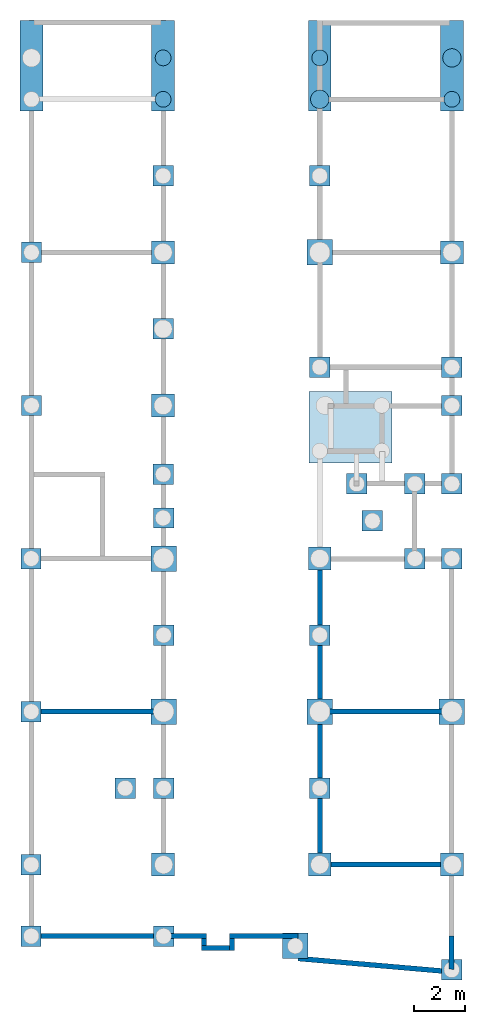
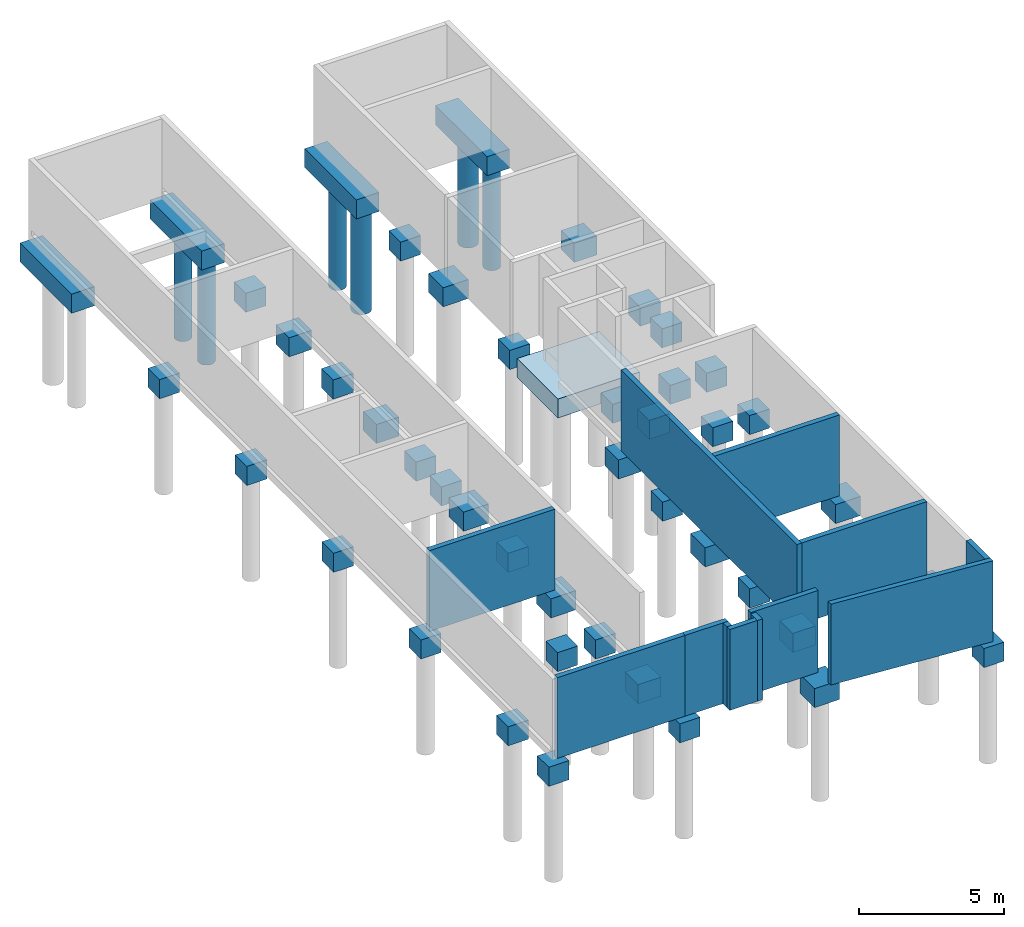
# One storey, part 2 of 3: 45 slabs, 12 walls, 6 columns.
"""IFC2X3 building model written with IfcOpenShell, lengths in metres."""

import ifcopenshell
import ifcopenshell.guid

model = None  # the IFC model being written
_history = None  # IfcOwnerHistory: only IFC2X3 demands one
_inside = {}  # id of a spatial element -> (the spatial element, [elements in it])
_under = {}  # id of a project, library or spatial element -> (it, [spatial elements below it])
_declared = {}  # id of a project -> (the project, [libraries it declares])
_typed = {}  # id of a type object -> (the type object, [elements of that type])
_made_of = {}  # id of a material, layer set ... -> (it, [elements and type objects made of it])


def new_model(schema):
    """Start an empty IFC model of exactly this schema.

    Asked for "IFC4X3", IfcOpenShell would pick the latest addendum, in which some entities
    have other attributes; the version numbers below select the first issue.
    IFC2X3 requires an IfcOwnerHistory on every rooted entity: one is made here for all.
    """
    global model, _history
    if schema == "IFC4X3":
        model = ifcopenshell.file(schema_version=(4, 3, 0, 0))
    else:
        model = ifcopenshell.file(schema=schema)
    _inside.clear()
    _under.clear()
    _declared.clear()
    _typed.clear()
    _made_of.clear()
    _history = None
    if model.schema == "IFC2X3":
        org = make("IfcOrganization", Name="unknown")
        user = make(
            "IfcPersonAndOrganization",
            ThePerson=make("IfcPerson", FamilyName="unknown"),
            TheOrganization=org,
        )
        app = make(
            "IfcApplication",
            ApplicationDeveloper=org,
            Version="unknown",
            ApplicationFullName="unknown",
            ApplicationIdentifier="unknown",
        )
        _history = make(
            "IfcOwnerHistory",
            OwningUser=user,
            OwningApplication=app,
            ChangeAction="ADDED",
            CreationDate=0,
        )
    return model


def make(cls, **values):
    """One entity of the class cls with the attributes given. An attribute that is None is left unset."""
    return model.create_entity(
        cls, **{name: value for name, value in values.items() if value is not None}
    )


def entity(cls, *values):
    """Any entity or typed value of the class cls, its attributes in the order of the schema. None: left unset."""
    e = model.create_entity(cls)
    for i, value in enumerate(values):
        if value is not None:
            e[i] = value
    return e


def rooted(cls, **values):
    """An entity with a GlobalId (a new one), such as an element, a storey or a relation."""
    return make(cls, GlobalId=ifcopenshell.guid.new(), OwnerHistory=_history, **values)


def si_unit(unit_type, name, prefix=None):
    """IfcSIUnit, for example si_unit("LENGTHUNIT", "METRE", prefix="MILLI")."""
    return make("IfcSIUnit", UnitType=unit_type, Prefix=prefix, Name=name)


def converted_unit(unit_type, name, factor, base, dimensions=None, offset=None):
    """IfcConversionBasedUnit, such as the inch: factor (a typed value) times the base unit."""
    return make(
        "IfcConversionBasedUnit"
        if offset is None
        else "IfcConversionBasedUnitWithOffset",
        ConversionOffset=offset,
        Dimensions=None
        if dimensions is None
        else entity("IfcDimensionalExponents", *dimensions),
        UnitType=unit_type,
        Name=name,
        ConversionFactor=make(
            "IfcMeasureWithUnit", ValueComponent=factor, UnitComponent=base
        ),
    )


def derived_unit(unit_type, elements):
    """IfcDerivedUnit: a product of units, each with its exponent."""
    return make(
        "IfcDerivedUnit",
        Elements=[
            make("IfcDerivedUnitElement", Unit=unit, Exponent=power)
            for unit, power in elements
        ],
        UnitType=unit_type,
    )


def assignment(units):
    """IfcUnitAssignment: the units of a project."""
    return None if units is None else make("IfcUnitAssignment", Units=units)


def point(xyz):
    """IfcCartesianPoint."""
    return None if xyz is None else make("IfcCartesianPoint", Coordinates=xyz)


def direction(xyz):
    """IfcDirection."""
    return None if xyz is None else make("IfcDirection", DirectionRatios=xyz)


def frame(location, z_axis=None, x_axis=None):
    """IfcAxis2Placement3D, a coordinate frame: its origin and axes. An axis left out is left unset."""
    return make(
        "IfcAxis2Placement3D",
        Location=point(location),
        Axis=direction(z_axis),
        RefDirection=direction(x_axis),
    )


def frame_2d(location, x_axis=None):
    """IfcAxis2Placement2D, a coordinate frame in the plane: its origin and x axis."""
    return make(
        "IfcAxis2Placement2D", Location=point(location), RefDirection=direction(x_axis)
    )


def origin():
    """The frame at (0, 0, 0) with its axes left unset."""
    return frame((0.0, 0.0, 0.0))


def origin_2d_with_axis():
    """The frame at (0, 0) in the plane with the x axis (1, 0) written out."""
    return frame_2d((0.0, 0.0), x_axis=(1.0, 0.0))


def place(relative_to, where):
    """IfcLocalPlacement: puts the frame where relative to a parent placement (None: the world)."""
    return make(
        "IfcLocalPlacement", PlacementRelTo=relative_to, RelativePlacement=where
    )


def context(
    kind, dimensions, precision=None, world=None, true_north=None, identifier=None
):
    """IfcGeometricRepresentationContext, for example the 3D "Model" context."""
    return make(
        "IfcGeometricRepresentationContext",
        ContextIdentifier=identifier,
        ContextType=kind,
        CoordinateSpaceDimension=dimensions,
        Precision=precision,
        WorldCoordinateSystem=world,
        TrueNorth=true_north,
    )


def subcontext(parent, identifier, kind, view, scale=None):
    """IfcGeometricRepresentationSubContext, for example "Body" below "Model"."""
    return make(
        "IfcGeometricRepresentationSubContext",
        ContextIdentifier=identifier,
        ContextType=kind,
        ParentContext=parent,
        TargetScale=scale,
        TargetView=view,
    )


def project(units=None, contexts=None):
    """IfcProject with its units and contexts."""
    return rooted(
        "IfcProject",
        Name="project",
        RepresentationContexts=contexts,
        UnitsInContext=assignment(units),
    )


def spatial(cls, under=None, at=None, **own):
    """A site, building, storey or space (cls), placed at a placement, below another one or the project."""
    s = rooted(cls, ObjectPlacement=at, **own)
    if under is not None:
        _under.setdefault(under.id(), (under, []))[1].append(s)
    return s


def polyline(points):
    """IfcPolyline through the points."""
    return make("IfcPolyline", Points=[point(p) for p in points])


def profile(cls, at=None, kind="AREA", **sizes):
    """A parametric profile (cls). Its sizes go by their IFC names, for example OverallWidth=200.0."""
    return make(cls, ProfileType=kind, Position=at, **sizes)


def rectangle(**sizes):
    """IfcRectangleProfileDef."""
    return profile("IfcRectangleProfileDef", **sizes)


def circle(**sizes):
    """IfcCircleProfileDef."""
    return profile("IfcCircleProfileDef", **sizes)


def outline(outer, holes=None, kind="AREA"):
    """IfcArbitraryClosedProfileDef: a profile drawn as a closed curve; with holes, ...WithVoids."""
    if holes is None:
        return make("IfcArbitraryClosedProfileDef", ProfileType=kind, OuterCurve=outer)
    return make(
        "IfcArbitraryProfileDefWithVoids",
        ProfileType=kind,
        OuterCurve=outer,
        InnerCurves=holes,
    )


def extrude(swept, where, along, depth):
    """IfcExtrudedAreaSolid: the profile swept, set in the frame where, extruded along a direction by depth."""
    return make(
        "IfcExtrudedAreaSolid",
        SweptArea=swept,
        Position=where,
        ExtrudedDirection=direction(along),
        Depth=depth,
    )


def shape(context_of_items, identifier, shape_type, items):
    """IfcShapeRepresentation: the items that make up one representation, for example the "Body"."""
    return make(
        "IfcShapeRepresentation",
        ContextOfItems=context_of_items,
        RepresentationIdentifier=identifier,
        RepresentationType=shape_type,
        Items=items,
    )


def source(mapping_origin, context_of_items, identifier, shape_type, items):
    """IfcRepresentationMap: a shape defined once, which mapped items show again and again."""
    return make(
        "IfcRepresentationMap",
        MappingOrigin=mapping_origin,
        MappedRepresentation=shape(context_of_items, identifier, shape_type, items),
    )


def transform(
    local_origin,
    x_axis=None,
    y_axis=None,
    z_axis=None,
    scale=None,
    scale2=None,
    scale3=None,
    uniform=True,
):
    """IfcCartesianTransformationOperator3D, or its non-uniform kind. x_axis, y_axis, z_axis: its Axis1, 2, 3."""
    if uniform:
        return make(
            "IfcCartesianTransformationOperator3D",
            Axis1=direction(x_axis),
            Axis2=direction(y_axis),
            LocalOrigin=point(local_origin),
            Scale=scale,
            Axis3=direction(z_axis),
        )
    return make(
        "IfcCartesianTransformationOperator3DnonUniform",
        Axis1=direction(x_axis),
        Axis2=direction(y_axis),
        LocalOrigin=point(local_origin),
        Scale=scale,
        Axis3=direction(z_axis),
        Scale2=scale2,
        Scale3=scale3,
    )


def mapped(mapping_source, mapping_target):
    """IfcMappedItem: shows the shape of a source again, moved by a transform."""
    return make(
        "IfcMappedItem", MappingSource=mapping_source, MappingTarget=mapping_target
    )


def material(Name=None, Category=None):
    """IfcMaterial."""
    return make("IfcMaterial", Name=Name, Category=Category)


def layer(
    of_material, thickness, ventilated=None, Name=None, Category=None, Priority=None
):
    """IfcMaterialLayer: one layer of a wall or slab, of a material (None: an air gap)."""
    return make(
        "IfcMaterialLayer",
        Material=of_material,
        LayerThickness=thickness,
        IsVentilated=ventilated,
        Name=Name,
        Category=Category,
        Priority=Priority,
    )


def layer_set(layers, Name=None):
    """IfcMaterialLayerSet."""
    return make("IfcMaterialLayerSet", MaterialLayers=layers, LayerSetName=Name)


def layer_usage(for_layer_set, set_direction, sense, offset, extent=None):
    """IfcMaterialLayerSetUsage: how a layer set lies in its element."""
    return make(
        "IfcMaterialLayerSetUsage",
        ForLayerSet=for_layer_set,
        LayerSetDirection=set_direction,
        DirectionSense=sense,
        OffsetFromReferenceLine=offset,
        ReferenceExtent=extent,
    )


def made_of(thing, what):
    """Note that an element or type object is made of a material, layer set ...; save() writes the relation."""
    if what is not None:
        _made_of.setdefault(what.id(), (what, []))[1].append(thing)
    return thing


def type_object(cls, material=None, **own):
    """A type object (cls), such as IfcWallType, which elements share."""
    return made_of(rooted(cls, **own), material)


def type_shapes(of_type, sources):
    """Give a type object the sources (RepresentationMaps) that its elements show as mapped items."""
    of_type.RepresentationMaps = sources


def element(
    cls,
    number,
    at=None,
    inside=None,
    cuts=None,
    type_object=None,
    material=None,
    context=None,
    identifier="Body",
    shape_type=None,
    held_by="IfcProductDefinitionShape",
    body=None,
    shapes=None,
    **own,
):
    """One element of the class cls, such as IfcWall. Its Tag is "e" and its number.

    at: its placement. inside: the storey or other place that contains it. cuts: it is an
    opening in that element (IfcRelVoidsElement). A single representation is given by context,
    identifier, shape_type and body (its items); several are given by shapes. held_by: the class
    of the entity that holds the representations. save() writes the other relations.
    """
    e = rooted(cls, Tag="e%d" % number, ObjectPlacement=at, **own)
    if body is not None:
        shapes = [shape(context, identifier, shape_type, body)]
    if shapes is not None:
        e.Representation = make(held_by, Representations=shapes)
    if inside is not None:
        _inside.setdefault(inside.id(), (inside, []))[1].append(e)
    if cuts is not None:
        rooted(
            "IfcRelVoidsElement", RelatingBuildingElement=cuts, RelatedOpeningElement=e
        )
    if type_object is not None:
        _typed.setdefault(type_object.id(), (type_object, []))[1].append(e)
    return made_of(e, material)


def aggregate(whole, parts):
    """IfcRelAggregates: a whole, such as a stair, and the parts it consists of."""
    return rooted("IfcRelAggregates", RelatingObject=whole, RelatedObjects=parts)


def save(model, path):
    """Write the relations noted so far, then the file.

    IfcRelAggregates (storeys below a building ...), IfcRelContainedInSpatialStructure (elements
    in a storey), IfcRelDefinesByType, IfcRelAssociatesMaterial and IfcRelDeclares: one each for
    every whole, place, type object, material and project.
    """
    for whole, parts in _under.values():
        aggregate(whole, parts)
    for where, things in _inside.values():
        rooted(
            "IfcRelContainedInSpatialStructure",
            RelatedElements=things,
            RelatingStructure=where,
        )
    for kind, things in _typed.values():
        rooted("IfcRelDefinesByType", RelatedObjects=things, RelatingType=kind)
    for what, things in _made_of.values():
        rooted("IfcRelAssociatesMaterial", RelatedObjects=things, RelatingMaterial=what)
    for by, libraries in _declared.values():
        rooted("IfcRelDeclares", RelatingContext=by, RelatedDefinitions=libraries)
    model.write(path)


model = new_model("IFC2X3")

# Units and contexts
model_context = context("Model", 3, precision=1e-05, world=origin(), true_north=direction((6.12303176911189e-17, 1.0)))
context_of_model = context(None, 3, precision=1e-05, world=origin(), true_north=direction((6.12303176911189e-17, 1.0)))
body_context = subcontext(model_context, "Body", "Model", "MODEL_VIEW")
ifc_project = project(units=[si_unit("LENGTHUNIT", "METRE"), si_unit("AREAUNIT", "SQUARE_METRE"), si_unit("VOLUMEUNIT", "CUBIC_METRE"), converted_unit("PLANEANGLEUNIT", "DEGREE", entity("IfcRatioMeasure", 0.0174532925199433), si_unit("PLANEANGLEUNIT", "RADIAN"), dimensions=[0, 0, 0, 0, 0, 0, 0]), si_unit("MASSUNIT", "GRAM", prefix="KILO"), si_unit("TIMEUNIT", "SECOND"), si_unit("FREQUENCYUNIT", "HERTZ"), si_unit("THERMODYNAMICTEMPERATUREUNIT", "DEGREE_CELSIUS"), derived_unit("THERMALTRANSMITTANCEUNIT", [(si_unit("MASSUNIT", "GRAM", prefix="KILO"), 1), (si_unit("THERMODYNAMICTEMPERATUREUNIT", "KELVIN"), -1), (si_unit("TIMEUNIT", "SECOND"), -3)]), derived_unit("VOLUMETRICFLOWRATEUNIT", [(si_unit("LENGTHUNIT", "METRE"), 3), (si_unit("TIMEUNIT", "SECOND"), -1)]), si_unit("ELECTRICCURRENTUNIT", "AMPERE"), si_unit("ELECTRICVOLTAGEUNIT", "VOLT"), si_unit("POWERUNIT", "WATT"), si_unit("FORCEUNIT", "NEWTON", prefix="KILO"), si_unit("ILLUMINANCEUNIT", "LUX"), si_unit("LUMINOUSFLUXUNIT", "LUMEN"), si_unit("LUMINOUSINTENSITYUNIT", "CANDELA"), si_unit("PRESSUREUNIT", "PASCAL")], contexts=[model_context, context_of_model])

# Site, building, storey
site_placement = place(None, origin())
site = spatial("IfcSite", under=ifc_project, at=site_placement, Name="Default", CompositionType="ELEMENT")
building_placement = place(site_placement, origin())
building = spatial("IfcBuilding", under=site, at=building_placement, CompositionType="ELEMENT")
storey_placement = place(building_placement, frame((0.0, 0.0, -3.39)))
storey = spatial("IfcBuildingStorey", under=building, at=storey_placement, Name="AS Dé", CompositionType="ELEMENT", Elevation=-3.39)

# Columns
column_type_1 = type_object("IfcColumnType", Name="Diamètre de 720 mm 2", PredefinedType="COLUMN")
shared_shape_1 = source(origin(), body_context, "Body", "SweptSolid", [
    extrude(circle(Radius=0.359999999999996, at=frame_2d((1.08286712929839e-15, -0.119999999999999), x_axis=(1.0, 0.0))), frame((5.82836098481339, 8.25485338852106, -8.39)), (0.0, 0.0, 1.0), 4.2),
])
type_shapes(column_type_1, [shared_shape_1])
column_1_placement = place(storey_placement, frame((0.0, 0.0, 3.39)))
element("IfcColumn", 1, at=column_1_placement, inside=storey, type_object=column_type_1, Name="Poteau rond:Diamètre de 720 mm 2", ObjectType="Diamètre de 720 mm 2", context=body_context, shape_type="MappedRepresentation", body=[
    mapped(shared_shape_1, transform((0.0, 0.0, 0.0), scale=1.0)),
])
ifc_material_1 = material(Name="Béton C25/30")
column_type_2 = type_object("IfcColumnType", Name="Diamètre de 720 mm 2", PredefinedType="COLUMN", material=ifc_material_1)
shared_shape_2 = source(origin(), body_context, "Body", "SweptSolid", [
    extrude(circle(Radius=0.359999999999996, at=frame_2d((5.41433564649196e-16, -0.119999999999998), x_axis=(1.0, 0.0))), frame((0.648360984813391, 6.62985338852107, -8.39)), (0.0, 0.0, 1.0), 4.2),
])
type_shapes(column_type_2, [shared_shape_2])
column_2_placement = place(storey_placement, frame((0.0, 0.0, 3.39)))
element("IfcColumn", 2, at=column_2_placement, inside=storey, type_object=column_type_2, material=ifc_material_1, Name="Poteau rond:Diamètre de 720 mm 2", ObjectType="Diamètre de 720 mm 2", context=body_context, shape_type="MappedRepresentation", body=[
    mapped(shared_shape_2, transform((0.0, 0.0, 0.0), scale=1.0)),
])
column_type_3 = type_object("IfcColumnType", Name="Diamètre de 620 mm 3", PredefinedType="COLUMN")
shared_shape_3 = source(origin(), body_context, "Body", "SweptSolid", [
    extrude(circle(Radius=0.309999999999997, at=frame_2d((1.08286712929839e-15, -0.103333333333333), x_axis=(1.0, 0.0))), frame((-5.49163901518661, 8.23818672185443, -8.39)), (0.0, 0.0, 1.0), 4.2),
])
type_shapes(column_type_3, [shared_shape_3])
column_3_placement = place(storey_placement, frame((0.0, 0.0, 3.39)))
element("IfcColumn", 3, at=column_3_placement, inside=storey, type_object=column_type_3, Name="Poteau rond:Diamètre de 620 mm 3", ObjectType="Diamètre de 620 mm 3", context=body_context, shape_type="MappedRepresentation", body=[
    mapped(shared_shape_3, transform((0.0, 0.0, 0.0), scale=1.0)),
])
column_type_4 = type_object("IfcColumnType", Name="Diamètre de 620 mm 3", PredefinedType="COLUMN", material=ifc_material_1)
shared_shape_4 = source(origin(), body_context, "Body", "SweptSolid", [
    extrude(circle(Radius=0.309999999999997, at=frame_2d((0.0, -0.103333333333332), x_axis=(1.0, 0.0))), frame((-5.49163901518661, 6.61318672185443, -8.39)), (0.0, 0.0, 1.0), 4.2),
])
type_shapes(column_type_4, [shared_shape_4])
column_4_placement = place(storey_placement, frame((0.0, 0.0, 3.39)))
element("IfcColumn", 4, at=column_4_placement, inside=storey, type_object=column_type_4, material=ifc_material_1, Name="Poteau rond:Diamètre de 620 mm 3", ObjectType="Diamètre de 620 mm 3", context=body_context, shape_type="MappedRepresentation", body=[
    mapped(shared_shape_4, transform((0.0, 0.0, 0.0), scale=1.0)),
])
column_type_5 = type_object("IfcColumnType", Name="Diamètre de 620 mm 3", PredefinedType="COLUMN", material=ifc_material_1)
shared_shape_5 = source(origin(), body_context, "Body", "SweptSolid", [
    extrude(circle(Radius=0.309999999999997, at=frame_2d((5.41433564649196e-16, -0.103333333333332), x_axis=(1.0, 0.0))), frame((0.648360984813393, 8.23818672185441, -8.39)), (0.0, 0.0, 1.0), 4.2),
])
type_shapes(column_type_5, [shared_shape_5])
column_5_placement = place(storey_placement, frame((0.0, 0.0, 3.39)))
element("IfcColumn", 5, at=column_5_placement, inside=storey, type_object=column_type_5, material=ifc_material_1, Name="Poteau rond:Diamètre de 620 mm 3", ObjectType="Diamètre de 620 mm 3", context=body_context, shape_type="MappedRepresentation", body=[
    mapped(shared_shape_5, transform((0.0, 0.0, 0.0), scale=1.0)),
])
column_type_6 = type_object("IfcColumnType", Name="Diamètre de 620 mm 3", PredefinedType="COLUMN")
shared_shape_6 = source(origin(), body_context, "Body", "SweptSolid", [
    extrude(circle(Radius=0.309999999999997, at=frame_2d((1.08286712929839e-15, -0.103333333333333), x_axis=(1.0, 0.0))), frame((5.82836098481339, 6.61318672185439, -8.39)), (0.0, 0.0, 1.0), 4.2),
])
type_shapes(column_type_6, [shared_shape_6])
column_6_placement = place(storey_placement, frame((0.0, 0.0, 3.39)))
element("IfcColumn", 6, at=column_6_placement, inside=storey, type_object=column_type_6, Name="Poteau rond:Diamètre de 620 mm 3", ObjectType="Diamètre de 620 mm 3", context=body_context, shape_type="MappedRepresentation", body=[
    mapped(shared_shape_6, transform((0.0, 0.0, 0.0), scale=1.0)),
])

# Slabs
ifc_material_2 = material(Name="Béton - Béton coulé sur place")
slab_1_placement = place(storey_placement, origin())
element("IfcSlab", 7, at=slab_1_placement, inside=storey, material=ifc_material_2, Name="Base rectangulaire:800mm x 800mm x 800mm ht", ObjectType="Base rectangulaire:800mm x 800mm x 800mm ht", PredefinedType="FLOOR", context=body_context, shape_type="SweptSolid", body=[
    extrude(rectangle(XDim=0.8, YDim=0.8, at=frame_2d((0.0, -5.55111512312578e-17), x_axis=(1.0, 0.0))), frame((-10.6516390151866, 0.509853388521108, -0.8), z_axis=(0.0, 0.0, 1.0), x_axis=(-1.0, 0.0, 0.0)), (0.0, 0.0, 1.0), 0.8),
])
slab_2_placement = place(storey_placement, origin())
element("IfcSlab", 8, at=slab_2_placement, inside=storey, material=ifc_material_2, Name="Base rectangulaire:800mm x 800mm x 800mm ht", ObjectType="Base rectangulaire:800mm x 800mm x 800mm ht", PredefinedType="FLOOR", context=body_context, shape_type="SweptSolid", body=[
    extrude(rectangle(XDim=0.8, YDim=0.8, at=origin_2d_with_axis()), frame((-5.49163901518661, 3.50985338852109, -0.8), z_axis=(0.0, 0.0, 1.0), x_axis=(-1.0, 0.0, 0.0)), (0.0, 0.0, 1.0), 0.8),
])
slab_3_placement = place(storey_placement, origin())
element("IfcSlab", 9, at=slab_3_placement, inside=storey, material=ifc_material_2, Name="Base rectangulaire:800mm x 800mm x 800mm ht", ObjectType="Base rectangulaire:800mm x 800mm x 800mm ht", PredefinedType="FLOOR", context=body_context, shape_type="SweptSolid", body=[
    extrude(rectangle(XDim=0.8, YDim=0.8, at=origin_2d_with_axis()), frame((0.648360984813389, 3.50985338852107, -0.8), z_axis=(0.0, 0.0, 1.0), x_axis=(-1.0, 0.0, 0.0)), (0.0, 0.0, 1.0), 0.8),
])
slab_4_placement = place(storey_placement, origin())
element("IfcSlab", 10, at=slab_4_placement, inside=storey, material=ifc_material_2, Name="Base rectangulaire:800mm x 800mm x 800mm ht", ObjectType="Base rectangulaire:800mm x 800mm x 800mm ht", PredefinedType="FLOOR", context=body_context, shape_type="SweptSolid", body=[
    extrude(rectangle(XDim=0.8, YDim=0.8, at=frame_2d((0.0, 1.38777878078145e-16), x_axis=(1.0, 0.0))), frame((-5.49163901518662, -2.49014661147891, -0.8), z_axis=(0.0, 0.0, 1.0), x_axis=(-1.0, 0.0, 0.0)), (0.0, 0.0, 1.0), 0.8),
])
slab_5_placement = place(storey_placement, origin())
element("IfcSlab", 11, at=slab_5_placement, inside=storey, material=ifc_material_2, Name="Base rectangulaire:800mm x 800mm x 800mm ht", ObjectType="Base rectangulaire:800mm x 800mm x 800mm ht", PredefinedType="FLOOR", context=body_context, shape_type="SweptSolid", body=[
    extrude(rectangle(XDim=0.8, YDim=0.8, at=origin_2d_with_axis()), frame((-10.6516390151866, -5.49014661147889, -0.8), z_axis=(0.0, 0.0, 1.0), x_axis=(-1.0, 0.0, 0.0)), (0.0, 0.0, 1.0), 0.8),
])
slab_6_placement = place(storey_placement, origin())
element("IfcSlab", 12, at=slab_6_placement, inside=storey, material=ifc_material_2, Name="Base rectangulaire:800mm x 800mm x 800mm ht", ObjectType="Base rectangulaire:800mm x 800mm x 800mm ht", PredefinedType="FLOOR", context=body_context, shape_type="SweptSolid", body=[
    extrude(rectangle(XDim=0.8, YDim=0.8, at=origin_2d_with_axis()), frame((5.82836098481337, -5.49014661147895, -0.8), z_axis=(0.0, 0.0, 1.0), x_axis=(-1.0, 0.0, 0.0)), (0.0, 0.0, 1.0), 0.8),
])
slab_7_placement = place(storey_placement, origin())
element("IfcSlab", 13, at=slab_7_placement, inside=storey, material=ifc_material_2, Name="Base rectangulaire:800mm x 800mm x 800mm ht", ObjectType="Base rectangulaire:800mm x 800mm x 800mm ht", PredefinedType="FLOOR", context=body_context, shape_type="SweptSolid", body=[
    extrude(rectangle(XDim=0.8, YDim=0.8, at=origin_2d_with_axis()), frame((5.82836098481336, -11.4901466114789, -0.8), z_axis=(0.0, 0.0, 1.0), x_axis=(-1.0, 0.0, 0.0)), (0.0, 0.0, 1.0), 0.8),
])
slab_8_placement = place(storey_placement, origin())
element("IfcSlab", 14, at=slab_8_placement, inside=storey, material=ifc_material_2, Name="Base rectangulaire:800mm x 800mm x 800mm ht", ObjectType="Base rectangulaire:800mm x 800mm x 800mm ht", PredefinedType="FLOOR", context=body_context, shape_type="SweptSolid", body=[
    extrude(rectangle(XDim=0.8, YDim=0.8, at=origin_2d_with_axis()), frame((-10.6716390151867, -26.2901466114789, -0.8005), z_axis=(0.0, 0.0, 1.0), x_axis=(-1.0, 0.0, 0.0)), (0.0, 0.0, 1.0), 0.8),
])
slab_9_placement = place(storey_placement, origin())
element("IfcSlab", 15, at=slab_9_placement, inside=storey, material=ifc_material_2, Name="Base rectangulaire:800mm x 800mm x 800mm ht", ObjectType="Base rectangulaire:800mm x 800mm x 800mm ht", PredefinedType="FLOOR", context=body_context, shape_type="SweptSolid", body=[
    extrude(rectangle(XDim=0.8, YDim=0.8, at=origin_2d_with_axis()), frame((-10.6716390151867, -23.4901466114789, -0.8), z_axis=(0.0, 0.0, 1.0), x_axis=(-1.0, 0.0, 0.0)), (0.0, 0.0, 1.0), 0.8),
])
slab_10_placement = place(storey_placement, origin())
element("IfcSlab", 16, at=slab_10_placement, inside=storey, material=ifc_material_2, Name="Base rectangulaire:800mm x 800mm x 800mm ht", ObjectType="Base rectangulaire:800mm x 800mm x 800mm ht", PredefinedType="FLOOR", context=body_context, shape_type="SweptSolid", body=[
    extrude(rectangle(XDim=0.8, YDim=0.8, at=origin_2d_with_axis()), frame((-10.6716390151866, -17.4901466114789, -0.8), z_axis=(0.0, 0.0, 1.0), x_axis=(-1.0, 0.0, 0.0)), (0.0, 0.0, 1.0), 0.8),
])
slab_11_placement = place(storey_placement, origin())
element("IfcSlab", 17, at=slab_11_placement, inside=storey, material=ifc_material_2, Name="Base rectangulaire:800mm x 800mm x 800mm ht", ObjectType="Base rectangulaire:800mm x 800mm x 800mm ht", PredefinedType="FLOOR", context=body_context, shape_type="SweptSolid", body=[
    extrude(rectangle(XDim=0.8, YDim=0.8, at=origin_2d_with_axis()), frame((-10.6716390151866, -11.4901466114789, -0.8), z_axis=(0.0, 0.0, 1.0), x_axis=(-1.0, 0.0, 0.0)), (0.0, 0.0, 1.0), 0.8),
])
slab_12_placement = place(storey_placement, origin())
element("IfcSlab", 18, at=slab_12_placement, inside=storey, material=ifc_material_2, Name="Base rectangulaire:800mm x 800mm x 800mm ht", ObjectType="Base rectangulaire:800mm x 800mm x 800mm ht", PredefinedType="FLOOR", context=body_context, shape_type="SweptSolid", body=[
    extrude(rectangle(XDim=0.8, YDim=0.8, at=origin_2d_with_axis()), frame((-5.49163901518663, -8.18014661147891, -0.8), z_axis=(0.0, 0.0, 1.0), x_axis=(-1.0, 0.0, 0.0)), (0.0, 0.0, 1.0), 0.8),
])
slab_13_placement = place(storey_placement, origin())
element("IfcSlab", 19, at=slab_13_placement, inside=storey, material=ifc_material_2, Name="Base rectangulaire:800mm x 800mm x 800mm ht", ObjectType="Base rectangulaire:800mm x 800mm x 800mm ht", PredefinedType="FLOOR", context=body_context, shape_type="SweptSolid", body=[
    extrude(rectangle(XDim=0.8, YDim=0.8, at=origin_2d_with_axis()), frame((0.64836098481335, -20.4901466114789, -0.8), z_axis=(0.0, 0.0, 1.0), x_axis=(-1.0, 0.0, 0.0)), (0.0, 0.0, 1.0), 0.8),
])
slab_14_placement = place(storey_placement, origin())
element("IfcSlab", 20, at=slab_14_placement, inside=storey, material=ifc_material_2, Name="Base rectangulaire:800mm x 800mm x 800mm ht", ObjectType="Base rectangulaire:800mm x 800mm x 800mm ht", PredefinedType="FLOOR", context=body_context, shape_type="SweptSolid", body=[
    extrude(rectangle(XDim=0.8, YDim=0.8, at=origin_2d_with_axis()), frame((0.648360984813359, -14.4901466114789, -0.8), z_axis=(0.0, 0.0, 1.0), x_axis=(-1.0, 0.0, 0.0)), (0.0, 0.0, 1.0), 0.8),
])
slab_15_placement = place(storey_placement, origin())
element("IfcSlab", 21, at=slab_15_placement, inside=storey, material=ifc_material_2, Name="Base rectangulaire:800mm x 800mm x 800mm ht", ObjectType="Base rectangulaire:800mm x 800mm x 800mm ht", PredefinedType="FLOOR", context=body_context, shape_type="SweptSolid", body=[
    extrude(rectangle(XDim=0.8, YDim=0.8, at=origin_2d_with_axis()), frame((5.82836098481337, -8.56014661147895, -0.8), z_axis=(0.0, 0.0, 1.0), x_axis=(-1.0, 0.0, 0.0)), (0.0, 0.0, 1.0), 0.8),
])
slab_16_placement = place(storey_placement, origin())
element("IfcSlab", 22, at=slab_16_placement, inside=storey, material=ifc_material_2, Name="Base rectangulaire:900mm x 900mm x 800mm ht", ObjectType="Base rectangulaire:900mm x 900mm x 800mm ht", PredefinedType="FLOOR", context=body_context, shape_type="SweptSolid", body=[
    extrude(rectangle(XDim=0.9, YDim=0.9, at=frame_2d((5.27355936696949e-16, 5.55111512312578e-17), x_axis=(1.0, 0.0))), frame((-5.49163901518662, 0.509853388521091, -0.8), z_axis=(0.0, 0.0, 1.0), x_axis=(-1.0, 0.0, 0.0)), (0.0, 0.0, 1.0), 0.8),
])
slab_17_placement = place(storey_placement, origin())
element("IfcSlab", 23, at=slab_17_placement, inside=storey, material=ifc_material_2, Name="Base rectangulaire:900mm x 900mm x 800mm ht", ObjectType="Base rectangulaire:900mm x 900mm x 800mm ht", PredefinedType="FLOOR", context=body_context, shape_type="SweptSolid", body=[
    extrude(rectangle(XDim=0.9, YDim=0.9, at=frame_2d((5.27355936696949e-16, 0.0), x_axis=(1.0, 0.0))), frame((5.82836098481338, 0.509853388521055, -0.8), z_axis=(0.0, 0.0, 1.0), x_axis=(-1.0, 0.0, 0.0)), (0.0, 0.0, 1.0), 0.8),
])
slab_18_placement = place(storey_placement, origin())
element("IfcSlab", 24, at=slab_18_placement, inside=storey, material=ifc_material_2, Name="Base rectangulaire:900mm x 900mm x 800mm ht", ObjectType="Base rectangulaire:900mm x 900mm x 800mm ht", PredefinedType="FLOOR", context=body_context, shape_type="SweptSolid", body=[
    extrude(rectangle(XDim=0.9, YDim=0.9, at=frame_2d((5.27355936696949e-16, -5.27355936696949e-16), x_axis=(1.0, 0.0))), frame((-5.49163901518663, -5.49014661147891, -0.8), z_axis=(0.0, 0.0, 1.0), x_axis=(-1.0, 0.0, 0.0)), (0.0, 0.0, 1.0), 0.8),
])
slab_19_placement = place(storey_placement, origin())
element("IfcSlab", 25, at=slab_19_placement, inside=storey, material=ifc_material_2, Name="Base rectangulaire:900mm x 900mm x 800mm ht", ObjectType="Base rectangulaire:900mm x 900mm x 800mm ht", PredefinedType="FLOOR", context=body_context, shape_type="SweptSolid", body=[
    extrude(rectangle(XDim=0.9, YDim=0.899999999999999, at=frame_2d((0.0, -2.16493489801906e-15), x_axis=(1.0, 0.0))), frame((0.648360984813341, -23.4901466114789, -0.8), z_axis=(0.0, 0.0, 1.0), x_axis=(-1.0, 0.0, 0.0)), (0.0, 0.0, 1.0), 0.8),
])
slab_20_placement = place(storey_placement, origin())
element("IfcSlab", 26, at=slab_20_placement, inside=storey, material=ifc_material_2, Name="Base rectangulaire:900mm x 900mm x 800mm ht", ObjectType="Base rectangulaire:900mm x 900mm x 800mm ht", PredefinedType="FLOOR", context=body_context, shape_type="SweptSolid", body=[
    extrude(rectangle(XDim=0.9, YDim=0.899999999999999, at=frame_2d((5.27355936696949e-16, -2.16493489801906e-15), x_axis=(1.0, 0.0))), frame((5.82836098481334, -23.490146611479, -0.8005), z_axis=(0.0, 0.0, 1.0), x_axis=(-1.0, 0.0, 0.0)), (0.0, 0.0, 1.0), 0.8),
])
slab_21_placement = place(storey_placement, origin())
element("IfcSlab", 27, at=slab_21_placement, inside=storey, material=ifc_material_2, Name="Base rectangulaire:1000mm x 1000mm x 800mm ht", ObjectType="Base rectangulaire:1000mm x 1000mm x 800mm ht", PredefinedType="FLOOR", context=body_context, shape_type="SweptSolid", body=[
    extrude(rectangle(XDim=1.0, YDim=1.0, at=origin_2d_with_axis()), frame((0.648360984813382, 0.509853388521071, -0.8), z_axis=(0.0, 0.0, 1.0), x_axis=(-1.0, 0.0, 0.0)), (0.0, 0.0, 1.0), 0.8),
])
slab_22_placement = place(storey_placement, origin())
element("IfcSlab", 28, at=slab_22_placement, inside=storey, material=ifc_material_2, Name="Base rectangulaire:1000mm x 1000mm x 800mm ht", ObjectType="Base rectangulaire:1000mm x 1000mm x 800mm ht", PredefinedType="FLOOR", context=body_context, shape_type="SweptSolid", body=[
    extrude(rectangle(XDim=1.0, YDim=1.0, at=frame_2d((0.0, 1.08246744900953e-15), x_axis=(1.0, 0.0))), frame((0.648360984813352, -17.4901466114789, -0.8), z_axis=(0.0, 0.0, 1.0), x_axis=(-1.0, 0.0, 0.0)), (0.0, 0.0, 1.0), 0.8),
])
slab_23_placement = place(storey_placement, origin())
element("IfcSlab", 29, at=slab_23_placement, inside=storey, material=ifc_material_2, Name="Base rectangulaire:1000mm x 1000mm x 800mm ht", ObjectType="Base rectangulaire:1000mm x 1000mm x 800mm ht", PredefinedType="FLOOR", context=body_context, shape_type="SweptSolid", body=[
    extrude(rectangle(XDim=1.0, YDim=1.0, at=frame_2d((0.0, 1.08246744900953e-15), x_axis=(1.0, 0.0))), frame((5.82836098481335, -17.4901466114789, -0.8), z_axis=(0.0, 0.0, 1.0), x_axis=(-1.0, 0.0, 0.0)), (0.0, 0.0, 1.0), 0.8),
])
slab_24_placement = place(storey_placement, origin())
element("IfcSlab", 30, at=slab_24_placement, inside=storey, material=ifc_material_2, Name="Base rectangulaire:800mm x 800mm x 800mm ht", ObjectType="Base rectangulaire:800mm x 800mm x 800mm ht", PredefinedType="FLOOR", context=body_context, shape_type="SweptSolid", body=[
    extrude(rectangle(XDim=0.8, YDim=0.8, at=origin_2d_with_axis()), frame((5.82836098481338, -3.99014661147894, -0.8), z_axis=(0.0, 0.0, 1.0), x_axis=(-1.0, 0.0, 0.0)), (0.0, 0.0, 1.0), 0.8),
])
slab_25_placement = place(storey_placement, origin())
element("IfcSlab", 31, at=slab_25_placement, inside=storey, material=ifc_material_2, Name="Base rectangulaire:800mm x 800mm x 800mm ht", ObjectType="Base rectangulaire:800mm x 800mm x 800mm ht", PredefinedType="FLOOR", context=body_context, shape_type="SweptSolid", body=[
    extrude(rectangle(XDim=0.8, YDim=0.8, at=origin_2d_with_axis()), frame((0.648360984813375, -3.99014661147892, -0.8), z_axis=(0.0, 0.0, 1.0), x_axis=(-1.0, 0.0, 0.0)), (0.0, 0.0, 1.0), 0.8),
])
slab_26_placement = place(storey_placement, origin())
element("IfcSlab", 32, at=slab_26_placement, inside=storey, material=ifc_material_2, Name="Base rectangulaire:900mm x 3550mm x 800mm ht", ObjectType="Base rectangulaire:900mm x 3550mm x 800mm ht", PredefinedType="FLOOR", context=body_context, shape_type="SweptSolid", body=[
    extrude(rectangle(XDim=3.55, YDim=0.900000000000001, at=frame_2d((4.44089209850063e-16, -1.08246744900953e-15), x_axis=(1.0, 0.0))), frame((-10.6516390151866, 7.83485338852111, -0.8), z_axis=(0.0, 0.0, 1.0), x_axis=(0.0, -1.0, 0.0)), (0.0, 0.0, 1.0), 0.8),
])
slab_27_placement = place(storey_placement, origin())
element("IfcSlab", 33, at=slab_27_placement, inside=storey, material=ifc_material_2, Name="Base rectangulaire:900mm x 3550mm x 800mm ht", ObjectType="Base rectangulaire:900mm x 3550mm x 800mm ht", PredefinedType="FLOOR", context=body_context, shape_type="SweptSolid", body=[
    extrude(rectangle(XDim=3.55, YDim=0.899999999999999, at=origin_2d_with_axis()), frame((-5.49163901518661, 7.83485338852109, -0.8), z_axis=(0.0, 0.0, 1.0), x_axis=(0.0, -1.0, 0.0)), (0.0, 0.0, 1.0), 0.8),
])
slab_28_placement = place(storey_placement, origin())
element("IfcSlab", 34, at=slab_28_placement, inside=storey, material=ifc_material_2, Name="Base rectangulaire:900mm x 3550mm x 800mm ht", ObjectType="Base rectangulaire:900mm x 3550mm x 800mm ht", PredefinedType="FLOOR", context=body_context, shape_type="SweptSolid", body=[
    extrude(rectangle(XDim=3.55, YDim=0.9, at=frame_2d((-5.55111512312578e-16, -5.55111512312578e-17), x_axis=(1.0, 0.0))), frame((0.648360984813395, 7.83485338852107, -0.8), z_axis=(0.0, 0.0, 1.0), x_axis=(0.0, -1.0, 0.0)), (0.0, 0.0, 1.0), 0.8),
])
slab_29_placement = place(storey_placement, origin())
element("IfcSlab", 35, at=slab_29_placement, inside=storey, material=ifc_material_2, Name="Base rectangulaire:900mm x 3550mm x 800mm ht", ObjectType="Base rectangulaire:900mm x 3550mm x 800mm ht", PredefinedType="FLOOR", context=body_context, shape_type="SweptSolid", body=[
    extrude(rectangle(XDim=3.55, YDim=0.9, at=frame_2d((5.55111512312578e-16, 0.0), x_axis=(1.0, 0.0))), frame((5.8283609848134, 7.83485338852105, -0.8), z_axis=(0.0, 0.0, 1.0), x_axis=(0.0, -1.0, 0.0)), (0.0, 0.0, 1.0), 0.8),
])
slab_30_placement = place(storey_placement, origin())
element("IfcSlab", 36, at=slab_30_placement, inside=storey, material=ifc_material_2, Name="Base rectangulaire:800mm x 800mm x 800mm ht", ObjectType="Base rectangulaire:800mm x 800mm x 800mm ht", PredefinedType="FLOOR", context=body_context, shape_type="SweptSolid", body=[
    extrude(rectangle(XDim=0.8, YDim=0.8, at=origin_2d_with_axis()), frame((-6.98163901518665, -20.4901466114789, -0.8), z_axis=(0.0, 0.0, 1.0), x_axis=(-1.0, 0.0, 0.0)), (0.0, 0.0, 1.0), 0.8),
])
slab_31_placement = place(storey_placement, origin())
element("IfcSlab", 37, at=slab_31_placement, inside=storey, material=ifc_material_2, Name="Base rectangulaire:800mm x 800mm x 800mm ht", ObjectType="Base rectangulaire:800mm x 800mm x 800mm ht", PredefinedType="FLOOR", context=body_context, shape_type="SweptSolid", body=[
    extrude(rectangle(XDim=0.8, YDim=0.8, at=origin_2d_with_axis()), frame((4.37836098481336, -11.4901466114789, -0.8), z_axis=(0.0, 0.0, 1.0), x_axis=(-1.0, 0.0, 0.0)), (0.0, 0.0, 1.0), 0.8),
])
slab_32_placement = place(storey_placement, origin())
element("IfcSlab", 38, at=slab_32_placement, inside=storey, material=ifc_material_2, Name="Base rectangulaire:900mm x 900mm x 800mm ht", ObjectType="Base rectangulaire:900mm x 900mm x 800mm ht", PredefinedType="FLOOR", context=body_context, shape_type="SweptSolid", body=[
    extrude(rectangle(XDim=0.9, YDim=0.899999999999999, at=origin_2d_with_axis()), frame((0.648360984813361, -11.4901466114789, -0.8), z_axis=(0.0, 0.0, 1.0), x_axis=(-1.0, 0.0, 0.0)), (0.0, 0.0, 1.0), 0.8),
])
slab_33_placement = place(storey_placement, origin())
element("IfcSlab", 39, at=slab_33_placement, inside=storey, material=ifc_material_2, Name="Base rectangulaire:800mm x 800mm x 800mm ht", ObjectType="Base rectangulaire:800mm x 800mm x 800mm ht", PredefinedType="FLOOR", context=body_context, shape_type="SweptSolid", body=[
    extrude(rectangle(XDim=0.8, YDim=0.8, at=origin_2d_with_axis()), frame((4.37836098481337, -8.56014661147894, -0.8), z_axis=(0.0, 0.0, 1.0), x_axis=(-1.0, 0.0, 0.0)), (0.0, 0.0, 1.0), 0.8),
])
slab_34_placement = place(storey_placement, origin())
element("IfcSlab", 40, at=slab_34_placement, inside=storey, material=ifc_material_2, Name="Base rectangulaire:800mm x 800mm x 800mm ht", ObjectType="Base rectangulaire:800mm x 800mm x 800mm ht", PredefinedType="FLOOR", context=body_context, shape_type="SweptSolid", body=[
    extrude(rectangle(XDim=0.8, YDim=0.8, at=origin_2d_with_axis()), frame((2.09836098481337, -8.56014661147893, -0.8), z_axis=(0.0, 0.0, 1.0), x_axis=(-1.0, 0.0, 0.0)), (0.0, 0.0, 1.0), 0.8),
])
slab_35_placement = place(storey_placement, origin())
element("IfcSlab", 41, at=slab_35_placement, inside=storey, material=ifc_material_2, Name="Base rectangulaire:800mm x 800mm x 800mm ht", ObjectType="Base rectangulaire:800mm x 800mm x 800mm ht", PredefinedType="FLOOR", context=body_context, shape_type="SweptSolid", body=[
    extrude(rectangle(XDim=0.8, YDim=0.8, at=origin_2d_with_axis()), frame((2.71336098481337, -10.0161466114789, -0.8), z_axis=(0.0, 0.0, 1.0), x_axis=(-1.0, 0.0, 0.0)), (0.0, 0.0, 1.0), 0.8),
])
slab_36_placement = place(storey_placement, origin())
element("IfcSlab", 42, at=slab_36_placement, inside=storey, material=ifc_material_2, Name="Base rectangulaire:1000mm x 1000mm x 800mm ht", ObjectType="Base rectangulaire:1000mm x 1000mm x 800mm ht", PredefinedType="FLOOR", context=body_context, shape_type="SweptSolid", body=[
    extrude(rectangle(XDim=1.0, YDim=0.999999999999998, at=frame_2d((5.55111512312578e-17, 0.0), x_axis=(1.0, 0.0))), frame((-0.311639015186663, -26.6751466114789, -0.8), z_axis=(0.0, 0.0, 1.0), x_axis=(-1.0, 0.0, 0.0)), (0.0, 0.0, 1.0), 0.8),
])
slab_37_placement = place(storey_placement, origin())
element("IfcSlab", 43, at=slab_37_placement, inside=storey, material=ifc_material_2, Name="Base rectangulaire:800mm x 800mm x 800mm ht", ObjectType="Base rectangulaire:800mm x 800mm x 800mm ht", PredefinedType="FLOOR", context=body_context, shape_type="SweptSolid", body=[
    extrude(rectangle(XDim=0.8, YDim=0.8, at=origin_2d_with_axis()), frame((-5.47163901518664, -9.90014661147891, -0.8), z_axis=(0.0, 0.0, 1.0), x_axis=(-1.0, 0.0, 0.0)), (0.0, 0.0, 1.0), 0.8),
])
slab_38_placement = place(storey_placement, origin())
element("IfcSlab", 44, at=slab_38_placement, inside=storey, material=ifc_material_2, Name="Base rectangulaire:1000mm x 1000mm x 800mm ht", ObjectType="Base rectangulaire:1000mm x 1000mm x 800mm ht", PredefinedType="FLOOR", context=body_context, shape_type="SweptSolid", body=[
    extrude(rectangle(XDim=1.0, YDim=1.0, at=frame_2d((0.0, -1.08246744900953e-15), x_axis=(1.0, 0.0))), frame((-5.47163901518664, -11.4901466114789, -0.8), z_axis=(0.0, 0.0, 1.0), x_axis=(-1.0, 0.0, 0.0)), (0.0, 0.0, 1.0), 0.8),
])
slab_39_placement = place(storey_placement, origin())
element("IfcSlab", 45, at=slab_39_placement, inside=storey, material=ifc_material_2, Name="Base rectangulaire:800mm x 800mm x 800mm ht", ObjectType="Base rectangulaire:800mm x 800mm x 800mm ht", PredefinedType="FLOOR", context=body_context, shape_type="SweptSolid", body=[
    extrude(rectangle(XDim=0.8, YDim=0.8, at=origin_2d_with_axis()), frame((-5.47163901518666, -26.2901466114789, -0.8), z_axis=(0.0, 0.0, 1.0), x_axis=(-1.0, 0.0, 0.0)), (0.0, 0.0, 1.0), 0.8),
])
slab_40_placement = place(storey_placement, origin())
element("IfcSlab", 46, at=slab_40_placement, inside=storey, material=ifc_material_2, Name="Base rectangulaire:800mm x 800mm x 800mm ht", ObjectType="Base rectangulaire:800mm x 800mm x 800mm ht", PredefinedType="FLOOR", context=body_context, shape_type="SweptSolid", body=[
    extrude(rectangle(XDim=0.8, YDim=0.8, at=origin_2d_with_axis()), frame((-5.47163901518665, -20.4901466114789, -0.8), z_axis=(0.0, 0.0, 1.0), x_axis=(-1.0, 0.0, 0.0)), (0.0, 0.0, 1.0), 0.8),
])
slab_41_placement = place(storey_placement, origin())
element("IfcSlab", 47, at=slab_41_placement, inside=storey, material=ifc_material_2, Name="Base rectangulaire:800mm x 800mm x 800mm ht", ObjectType="Base rectangulaire:800mm x 800mm x 800mm ht", PredefinedType="FLOOR", context=body_context, shape_type="SweptSolid", body=[
    extrude(rectangle(XDim=0.8, YDim=0.8, at=origin_2d_with_axis()), frame((-5.47163901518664, -14.4901466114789, -0.8), z_axis=(0.0, 0.0, 1.0), x_axis=(-1.0, 0.0, 0.0)), (0.0, 0.0, 1.0), 0.8),
])
slab_42_placement = place(storey_placement, origin())
element("IfcSlab", 48, at=slab_42_placement, inside=storey, material=ifc_material_2, Name="Base rectangulaire:900mm x 900mm x 800mm ht", ObjectType="Base rectangulaire:900mm x 900mm x 800mm ht", PredefinedType="FLOOR", context=body_context, shape_type="SweptSolid", body=[
    extrude(rectangle(XDim=0.9, YDim=0.899999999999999, at=frame_2d((5.27355936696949e-16, -2.16493489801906e-15), x_axis=(1.0, 0.0))), frame((-5.49163901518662, -23.4901466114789, -0.8), z_axis=(0.0, 0.0, 1.0), x_axis=(-1.0, 0.0, 0.0)), (0.0, 0.0, 1.0), 0.8),
])
slab_43_placement = place(storey_placement, origin())
element("IfcSlab", 49, at=slab_43_placement, inside=storey, material=ifc_material_2, Name="Base rectangulaire:1000mm x 1000mm x 800mm ht", ObjectType="Base rectangulaire:1000mm x 1000mm x 800mm ht", PredefinedType="FLOOR", context=body_context, shape_type="SweptSolid", body=[
    extrude(rectangle(XDim=1.0, YDim=1.0, at=frame_2d((0.0, -1.08246744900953e-15), x_axis=(1.0, 0.0))), frame((-5.47163901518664, -17.4901466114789, -0.8), z_axis=(0.0, 0.0, 1.0), x_axis=(-1.0, 0.0, 0.0)), (0.0, 0.0, 1.0), 0.8),
])
slab_44_placement = place(storey_placement, origin())
element("IfcSlab", 50, at=slab_44_placement, inside=storey, material=ifc_material_2, Name="Base rectangulaire:2800mm x 3250mm x 800mm ht 2", ObjectType="Base rectangulaire:2800mm x 3250mm x 800mm ht 2", PredefinedType="FLOOR", context=body_context, shape_type="SweptSolid", body=[
    extrude(rectangle(XDim=3.25, YDim=2.8, at=frame_2d((0.0, 5.55111512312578e-16), x_axis=(1.0, 0.0))), frame((1.85836098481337, -6.33514661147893, -0.8), z_axis=(0.0, 0.0, 1.0), x_axis=(-1.0, 0.0, 0.0)), (0.0, 0.0, 1.0), 0.8),
])
slab_45_placement = place(storey_placement, origin())
element("IfcSlab", 51, at=slab_45_placement, inside=storey, material=ifc_material_2, Name="Base rectangulaire:800mm x 800mm x 800mm ht", ObjectType="Base rectangulaire:800mm x 800mm x 800mm ht", PredefinedType="FLOOR", context=body_context, shape_type="SweptSolid", body=[
    extrude(rectangle(XDim=0.8, YDim=0.8, at=origin_2d_with_axis()), frame((5.82836098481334, -27.6101466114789, -0.8), z_axis=(0.0, 0.0, 1.0), x_axis=(-1.0, 0.0, 0.0)), (0.0, 0.0, 1.0), 0.8),
])

# Walls
ifc_layer = layer(ifc_material_1, 0.2)
ifc_layer_set = layer_set([ifc_layer], Name="Mur de base:Générique - 200 mm")
ifc_layer_usage_1 = layer_usage(ifc_layer_set, "AXIS2", "NEGATIVE", 0.1)
wall_type = type_object("IfcWallType", Name="Mur de base:Générique - 200 mm", PredefinedType="STANDARD", material=ifc_layer_set)
wall_1_placement = place(storey_placement, frame((5.81836098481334, -26.2901466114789, 0.0), z_axis=(0.0, 0.0, 1.0), x_axis=(0.0, -1.0, 0.0)))
element("IfcWallStandardCase", 52, at=wall_1_placement, inside=storey, type_object=wall_type, material=ifc_layer_usage_1, Name="Mur de base:Générique - 200 mm", ObjectType="Mur de base:Générique - 200 mm:1740", context=body_context, shape_type="SweptSolid", body=[
    extrude(outline(polyline([(1.29067466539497, -0.1), (1.30798480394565, 0.0999999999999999), (0.0, 0.1), (0.0, -0.1), (1.29067466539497, -0.1)])), origin(), (0.0, 0.0, 1.0), 3.39),
])
ifc_layer_usage_2 = layer_usage(ifc_layer_set, "AXIS2", "NEGATIVE", 0.1)
wall_2_placement = place(storey_placement, frame((-5.48163901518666, -26.2801466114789, 0.0)))
element("IfcWallStandardCase", 53, at=wall_2_placement, inside=storey, type_object=wall_type, material=ifc_layer_usage_2, Name="Mur de base:Générique - 200 mm", ObjectType="Mur de base:Générique - 200 mm:1740", context=body_context, shape_type="SweptSolid", body=[
    extrude(rectangle(XDim=1.7, YDim=0.199999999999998, at=frame_2d((0.850000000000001, 1.59594559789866e-16), x_axis=(-1.0, 0.0))), origin(), (0.0, 0.0, 1.0), 3.39),
])
ifc_layer_usage_3 = layer_usage(ifc_layer_set, "AXIS2", "NEGATIVE", 0.1)
wall_3_placement = place(storey_placement, frame((-2.78573607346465, -26.8497393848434, 0.0), z_axis=(0.0, 0.0, 1.0), x_axis=(0.0, 1.0, 0.0)))
element("IfcWallStandardCase", 54, at=wall_3_placement, inside=storey, type_object=wall_type, material=ifc_layer_usage_3, Name="Mur de base:Générique - 200 mm", ObjectType="Mur de base:Générique - 200 mm:1740", context=body_context, shape_type="SweptSolid", body=[
    extrude(rectangle(XDim=0.459592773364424, YDim=0.2, at=frame_2d((0.229796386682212, -9.0205620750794e-17), x_axis=(-1.0, 0.0))), origin(), (0.0, 0.0, 1.0), 3.39),
])
ifc_layer_usage_4 = layer_usage(ifc_layer_set, "AXIS2", "NEGATIVE", 0.1)
wall_4_placement = place(storey_placement, frame((-2.88573607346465, -26.2901466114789, 0.0)))
element("IfcWallStandardCase", 55, at=wall_4_placement, inside=storey, type_object=wall_type, material=ifc_layer_usage_4, Name="Mur de base:Générique - 200 mm", ObjectType="Mur de base:Générique - 200 mm:1740", context=body_context, shape_type="SweptSolid", body=[
    extrude(rectangle(XDim=2.67409705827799, YDim=0.199999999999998, at=frame_2d((1.33704852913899, 3.46944695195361e-16), x_axis=(-1.0, 0.0))), origin(), (0.0, 0.0, 1.0), 3.44),
])
ifc_layer_usage_5 = layer_usage(ifc_layer_set, "AXIS2", "NEGATIVE", 0.1)
wall_5_placement = place(storey_placement, frame((-0.220261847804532, -27.1672032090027, 0.0), z_axis=(0.0, 0.0, 1.0), x_axis=(0.996275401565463, -0.0862283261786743, 0.0)))
element("IfcWallStandardCase", 56, at=wall_5_placement, inside=storey, type_object=wall_type, material=ifc_layer_usage_5, Name="Mur de base:Générique - 200 mm", ObjectType="Mur de base:Générique - 200 mm:1740", context=body_context, shape_type="SweptSolid", body=[
    extrude(outline(polyline([(6.1702272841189, -0.100000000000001), (6.15291714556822, 0.100000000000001), (5.95216944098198, 0.0999999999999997), (0.0, 0.100000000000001), (0.0173101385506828, -0.100000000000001), (6.1702272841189, -0.100000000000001)])), origin(), (0.0, 0.0, 1.0), 3.39),
])
ifc_layer_usage_6 = layer_usage(ifc_layer_set, "AXIS2", "NEGATIVE", 0.1)
wall_6_placement = place(storey_placement, frame((0.658360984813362, -11.5001466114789, 0.0), z_axis=(0.0, 0.0, 1.0), x_axis=(0.0, -1.0, 0.0)))
element("IfcWallStandardCase", 57, at=wall_6_placement, inside=storey, type_object=wall_type, material=ifc_layer_usage_6, Name="Mur de base:Générique - 200 mm", ObjectType="Mur de base:Générique - 200 mm:1740", context=body_context, shape_type="SweptSolid", body=[
    extrude(rectangle(XDim=12.09, YDim=0.2, at=frame_2d((6.045, 6.93889390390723e-18), x_axis=(-1.0, 0.0))), origin(), (0.0, 0.0, 1.0), 3.39),
])
ifc_layer_usage_7 = layer_usage(ifc_layer_set, "AXIS2", "NEGATIVE", 0.1)
wall_7_placement = place(storey_placement, frame((-3.88163901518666, -26.3801466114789, 0.0), z_axis=(0.0, 0.0, 1.0), x_axis=(0.0, -1.0, 0.0)))
element("IfcWallStandardCase", 58, at=wall_7_placement, inside=storey, type_object=wall_type, material=ifc_layer_usage_7, Name="Mur de base:Générique - 200 mm", ObjectType="Mur de base:Générique - 200 mm:1740", context=body_context, shape_type="SweptSolid", body=[
    extrude(rectangle(XDim=0.269592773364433, YDim=0.2, at=frame_2d((0.134796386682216, -1.38777878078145e-17), x_axis=(-1.0, 0.0))), origin(), (0.0, 0.0, 1.0), 3.39),
])
ifc_layer_usage_8 = layer_usage(ifc_layer_set, "AXIS2", "NEGATIVE", 0.1)
wall_8_placement = place(storey_placement, frame((-3.98163901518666, -26.7497393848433, 0.0)))
element("IfcWallStandardCase", 59, at=wall_8_placement, inside=storey, type_object=wall_type, material=ifc_layer_usage_8, Name="Mur de base:Générique - 200 mm", ObjectType="Mur de base:Générique - 200 mm:1740", context=body_context, shape_type="SweptSolid", body=[
    extrude(rectangle(XDim=1.09590294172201, YDim=0.199999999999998, at=frame_2d((0.547951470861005, 0.0), x_axis=(-1.0, 0.0))), origin(), (0.0, 0.0, 1.0), 3.39),
])
ifc_layer_usage_9 = layer_usage(ifc_layer_set, "AXIS2", "NEGATIVE", 0.1)
wall_9_placement = place(storey_placement, frame((0.758360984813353, -17.4901466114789, 0.0)))
element("IfcWallStandardCase", 60, at=wall_9_placement, inside=storey, type_object=wall_type, material=ifc_layer_usage_9, Name="Mur de base:Générique - 200 mm", ObjectType="Mur de base:Générique - 200 mm:1740", context=body_context, shape_type="SweptSolid", body=[
    extrude(rectangle(XDim=4.96, YDim=0.200000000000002, at=frame_2d((2.48, 0.0), x_axis=(-1.0, 0.0))), origin(), (0.0, 0.0, 1.0), 3.39),
])
ifc_layer_usage_10 = layer_usage(ifc_layer_set, "AXIS2", "NEGATIVE", 0.1)
wall_10_placement = place(storey_placement, frame((-10.5516390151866, -17.4901466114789, 0.0)))
element("IfcWallStandardCase", 61, at=wall_10_placement, inside=storey, type_object=wall_type, material=ifc_layer_usage_10, Name="Mur de base:Générique - 200 mm", ObjectType="Mur de base:Générique - 200 mm:1740", context=body_context, shape_type="SweptSolid", body=[
    extrude(rectangle(XDim=4.98, YDim=0.199999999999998, at=frame_2d((2.49, 3.46944695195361e-17), x_axis=(-1.0, 0.0))), origin(), (0.0, 0.0, 1.0), 3.39),
])
ifc_layer_usage_11 = layer_usage(ifc_layer_set, "AXIS2", "NEGATIVE", 0.1)
wall_11_placement = place(storey_placement, frame((5.71836098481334, -23.490146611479, 0.0), z_axis=(0.0, 0.0, 1.0), x_axis=(-1.0, 0.0, 0.0)))
element("IfcWallStandardCase", 62, at=wall_11_placement, inside=storey, type_object=wall_type, material=ifc_layer_usage_11, Name="Mur de base:Générique - 200 mm", ObjectType="Mur de base:Générique - 200 mm:1740", context=body_context, shape_type="SweptSolid", body=[
    extrude(rectangle(XDim=4.96, YDim=0.199999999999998, at=frame_2d((2.48, -3.40005801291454e-16), x_axis=(-1.0, 0.0))), origin(), (0.0, 0.0, 1.0), 3.39),
])
ifc_layer_usage_12 = layer_usage(ifc_layer_set, "AXIS2", "NEGATIVE", 0.1)
wall_12_placement = place(storey_placement, frame((-10.5516390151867, -26.2801466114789, 0.0)))
element("IfcWallStandardCase", 63, at=wall_12_placement, inside=storey, type_object=wall_type, material=ifc_layer_usage_12, Name="Mur de base:Générique - 200 mm", ObjectType="Mur de base:Générique - 200 mm:1740", context=body_context, shape_type="SweptSolid", body=[
    extrude(rectangle(XDim=5.07, YDim=0.199999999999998, at=frame_2d((2.535, -3.2612801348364e-16), x_axis=(-1.0, 0.0))), origin(), (0.0, 0.0, 1.0), 3.39),
])

save(model, "model.ifc")
